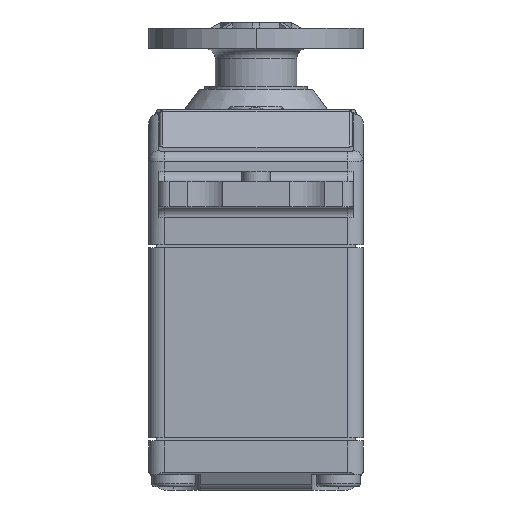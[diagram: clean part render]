
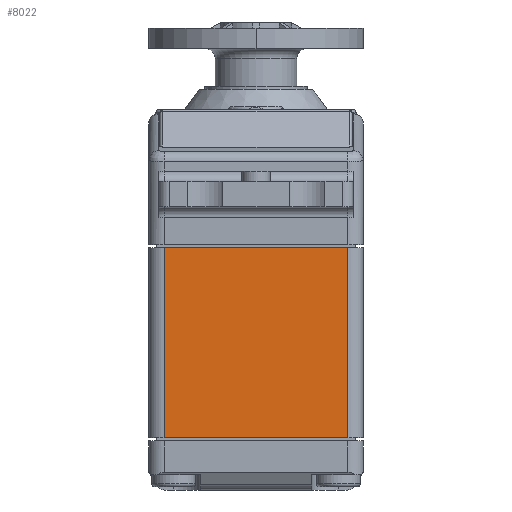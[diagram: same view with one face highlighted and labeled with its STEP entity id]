
A CAD part, front view. The second image highlights one B-rep face of the part: STEP entity #8022.
In plain terms, the highlighted planar face has unit normal (0, -1, 0).
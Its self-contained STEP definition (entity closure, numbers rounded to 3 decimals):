
#860 = EDGE_CURVE ( 'NONE', #6230, #862, #3864, .T. ) ;
#862 = VERTEX_POINT ( 'NONE', #11542 ) ;
#1016 = CARTESIAN_POINT ( 'NONE',  ( -9., -30.2, 2. ) ) ;
#1694 = DIRECTION ( 'NONE',  ( 0., 1., 0. ) ) ;
#2243 = EDGE_LOOP ( 'NONE', ( #7992, #6034, #6800, #14783 ) ) ;
#3582 = DIRECTION ( 'NONE',  ( -1., 0., 0. ) ) ;
#3864 = LINE ( 'NONE', #1016, #15747 ) ;
#4757 = VECTOR ( 'NONE', #3582, 1000. ) ;
#4788 = CARTESIAN_POINT ( 'NONE',  ( 9., -30.2, -13.5 ) ) ;
#5171 = DIRECTION ( 'NONE',  ( 1., 0., 0. ) ) ;
#5448 = LINE ( 'NONE', #17259, #4757 ) ;
#6034 = ORIENTED_EDGE ( 'NONE', *, *, #860, .T. ) ;
#6230 = VERTEX_POINT ( 'NONE', #7662 ) ;
#6800 = ORIENTED_EDGE ( 'NONE', *, *, #11675, .F. ) ;
#6933 = DIRECTION ( 'NONE',  ( 0., 0., 1. ) ) ;
#7662 = CARTESIAN_POINT ( 'NONE',  ( -9., -30.2, -13.5 ) ) ;
#7992 = ORIENTED_EDGE ( 'NONE', *, *, #14776, .F. ) ;
#8022 = ADVANCED_FACE ( 'NONE', ( #12038 ), #18035, .F. ) ;
#9900 = CARTESIAN_POINT ( 'NONE',  ( 9.7, -30.2, -13.5 ) ) ;
#10551 = DIRECTION ( 'NONE',  ( 1., 0., 0. ) ) ;
#10582 = VECTOR ( 'NONE', #6933, 1000. ) ;
#10649 = CARTESIAN_POINT ( 'NONE',  ( -10.5, -30.2, 2. ) ) ;
#10778 = CARTESIAN_POINT ( 'NONE',  ( 9., -30.2, -32.1 ) ) ;
#11542 = CARTESIAN_POINT ( 'NONE',  ( -9., -30.2, -32.1 ) ) ;
#11675 = EDGE_CURVE ( 'NONE', #17093, #862, #5448, .T. ) ;
#12038 = FACE_OUTER_BOUND ( 'NONE', #2243, .T. ) ;
#12387 = VERTEX_POINT ( 'NONE', #4788 ) ;
#13125 = VECTOR ( 'NONE', #5171, 1000. ) ;
#14591 = DIRECTION ( 'NONE',  ( 0., 0., -1. ) ) ;
#14776 = EDGE_CURVE ( 'NONE', #6230, #12387, #18665, .T. ) ;
#14783 = ORIENTED_EDGE ( 'NONE', *, *, #17192, .T. ) ;
#15591 = CARTESIAN_POINT ( 'NONE',  ( 9., -30.2, 2. ) ) ;
#15747 = VECTOR ( 'NONE', #14591, 1000. ) ;
#15794 = LINE ( 'NONE', #15591, #10582 ) ;
#17076 = AXIS2_PLACEMENT_3D ( 'NONE', #10649, #1694, #10551 ) ;
#17093 = VERTEX_POINT ( 'NONE', #10778 ) ;
#17192 = EDGE_CURVE ( 'NONE', #17093, #12387, #15794, .T. ) ;
#17259 = CARTESIAN_POINT ( 'NONE',  ( -9.7, -30.2, -32.1 ) ) ;
#18035 = PLANE ( 'NONE',  #17076 ) ;
#18665 = LINE ( 'NONE', #9900, #13125 ) ;
